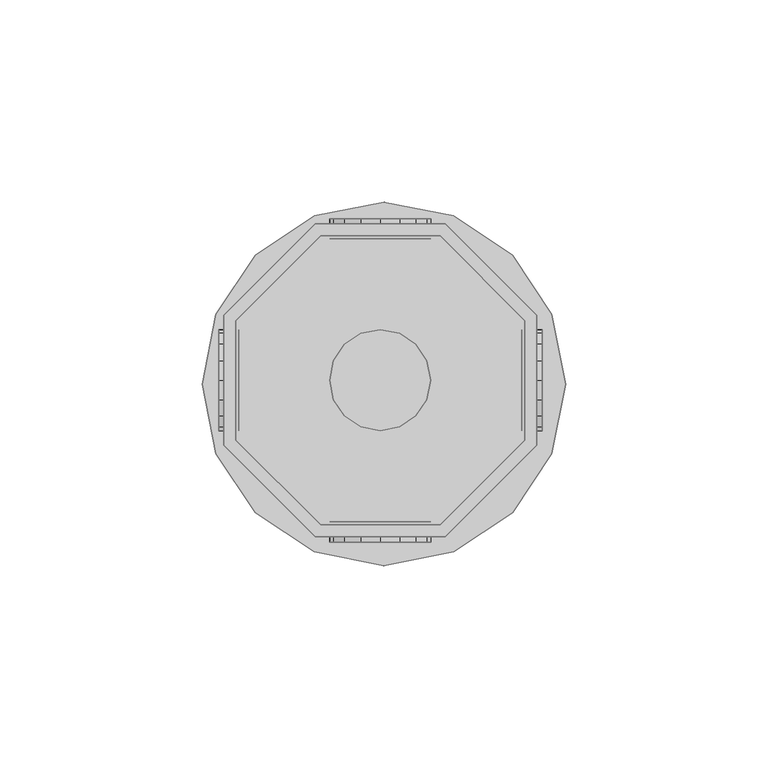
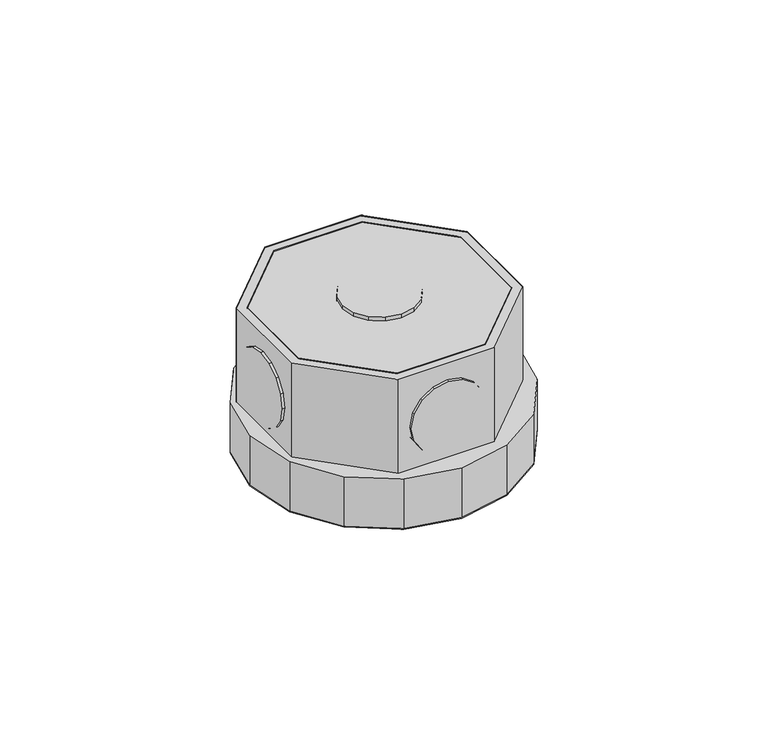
"""IFC4 building model written with IfcOpenShell, lengths in millimetres: light fixture geometry,  212966 :  212966."""

from ifc_helpers import new_model, si_unit, origin, place, context, project, spatial, triangles, source, transform, mapped, element, save


def light_fixture_6e5e3d0a(model_context):
    return source(origin(), model_context, "Body", "Tessellation", [
        triangles([(17975.0005005, 12407.9996063, 2924.5999741), (17945.3999817, 12407.9996063, 2975.400071), (17945.3999817, 12407.9996063, 2924.5999741), (17975.0005005, 12407.9996063, 2975.400071), (17976.2004272, 12333.4995026, 2924.5999741), (17944.100061, 12333.4995026, 2975.400071), (17944.100061, 12333.4995026, 2924.5999741), (17976.2004272, 12333.4995026, 2975.400071), (17924.4001007, 12386.9997253, 2975.400071), (17924.4001007, 12386.9997253, 2924.5999741), (17998.9002045, 12356.2004425, 2924.5999741), (17998.9002045, 12356.2004425, 2975.400071), (17924.4001007, 12357.4003693, 2975.400071), (17924.4001007, 12357.4003693, 2924.5999741), (17998.9002045, 12388.299646, 2924.5999741), (17998.9002045, 12388.299646, 2975.400071), (17945.3999817, 12336.5004822, 2975.400071), (17945.3999817, 12336.5004822, 2924.5999741), (17976.2004272, 12410.9994232, 2924.5999741), (17976.2004272, 12410.9994232, 2975.400071), (17975.0005005, 12336.5004822, 2924.5999741), (17975.0005005, 12336.5004822, 2975.400071), (17944.100061, 12410.9994232, 2975.400071), (17944.100061, 12410.9994232, 2924.5999741), (17995.9003876, 12357.4003693, 2924.5999741), (17995.9003876, 12357.4003693, 2975.400071), (17921.4002838, 12388.299646, 2975.400071), (17921.4002838, 12388.299646, 2924.5999741), (17921.4002838, 12356.2004425, 2975.400071), (17995.9003876, 12386.9997253, 2975.400071), (17995.9003876, 12386.9997253, 2924.5999741), (17921.4002838, 12356.2004425, 2924.5999741), (17924.4001007, 12357.4003693, 2972.3999634), (17945.3999817, 12336.5004822, 2972.3999634), (17975.0005005, 12336.5004822, 2972.3999634), (17995.9003876, 12357.4003693, 2972.3999634), (17995.9003876, 12386.9997253, 2972.3999634), (17975.0005005, 12407.9996063, 2972.3999634), (17945.3999817, 12407.9996063, 2972.3999634), (17924.4001007, 12386.9997253, 2972.3999634), (17921.4002838, 12388.299646, 2942.4000504), (17944.100061, 12410.9994232, 2942.4000504), (17976.2004272, 12410.9994232, 2942.4000504), (17998.9002045, 12388.299646, 2942.4000504), (17998.9002045, 12356.2004425, 2942.4000504), (17976.2004272, 12333.4995026, 2942.4000504), (17944.100061, 12333.4995026, 2942.4000504), (17921.4002838, 12356.2004425, 2942.4000504), (17943.8000793, 12329.7997284, 2942.4000504), (17919.5003998, 12354.1005707, 2942.4000504), (17929.1998077, 12339.5002991, 2942.4000504), (17916.0994446, 12371.2995209, 2942.4000504), (17919.5003998, 12388.5996277, 2942.4000504), (17929.1998077, 12403.1998993, 2942.4000504), (17943.8000793, 12412.90047, 2942.4000504), (17961.1001862, 12416.3002625, 2942.4000504), (17978.3002991, 12412.90047, 2942.4000504), (18002.5999786, 12388.5996277, 2942.4000504), (17992.9005707, 12403.1998993, 2942.4000504), (17961.1001862, 12326.299942, 2942.4000504), (17978.3002991, 12329.7997284, 2942.4000504), (17992.9005707, 12339.5002991, 2942.4000504), (18002.5999786, 12354.1005707, 2942.4000504), (18006.099765, 12371.2995209, 2942.4000504), (17919.5003998, 12354.1005707, 2924.5999741), (17943.8000793, 12329.7997284, 2924.5999741), (17929.1998077, 12339.5002991, 2924.5999741), (17916.0994446, 12371.2995209, 2924.5999741), (17919.5003998, 12388.5996277, 2924.5999741), (17929.1998077, 12403.1998993, 2924.5999741), (17943.8000793, 12412.90047, 2924.5999741), (17961.1001862, 12416.3002625, 2924.5999741), (17978.3002991, 12412.90047, 2924.5999741), (18002.5999786, 12388.5996277, 2924.5999741), (17992.9005707, 12403.1998993, 2924.5999741), (17961.1001862, 12326.299942, 2924.5999741), (17978.3002991, 12329.7997284, 2924.5999741), (17992.9005707, 12339.5002991, 2924.5999741), (18002.5999786, 12354.1005707, 2924.5999741), (18006.099765, 12371.2995209, 2924.5999741), (17948.5997864, 12412.2005127, 2952.6000092), (17955.4005341, 12412.2005127, 2945.9001274), (17951.2996216, 12412.2005127, 2948.5999626), (17947.6998413, 12412.2005127, 2957.4000069), (17960.2002411, 12412.2005127, 2944.8998978), (17948.5997864, 12412.2005127, 2962.2000046), (17964.9999481, 12412.2005127, 2945.9001274), (17951.2996216, 12412.2005127, 2966.2000511), (17968.999704, 12412.2005127, 2948.5999626), (17955.4005341, 12412.2005127, 2968.8998863), (17971.6995392, 12412.2005127, 2952.6000092), (17960.2002411, 12412.2005127, 2969.900116), (17972.6994781, 12412.2005127, 2957.4000069), (17964.9999481, 12412.2005127, 2968.8998863), (17971.6995392, 12412.2005127, 2962.2000046), (17968.999704, 12412.2005127, 2966.2000511), (17955.4005341, 12407.1996552, 2945.9001274), (17948.5997864, 12407.1996552, 2952.6000092), (17951.2996216, 12407.1996552, 2948.5999626), (17960.2002411, 12407.1996552, 2944.8998978), (17947.6998413, 12407.1996552, 2957.4000069), (17964.9999481, 12407.1996552, 2945.9001274), (17948.5997864, 12407.1996552, 2962.2000046), (17968.999704, 12407.1996552, 2948.5999626), (17951.2996216, 12407.1996552, 2966.2000511), (17955.4005341, 12407.1996552, 2968.8998863), (17971.6995392, 12407.1996552, 2952.6000092), (17960.2002411, 12407.1996552, 2969.900116), (17972.6994781, 12407.1996552, 2957.4000069), (17964.9999481, 12407.1996552, 2968.8998863), (17971.6995392, 12407.1996552, 2962.2000046), (17968.999704, 12407.1996552, 2966.2000511), (17948.5997864, 12337.2004395, 2952.6000092), (17955.4005341, 12337.2004395, 2945.9001274), (17951.2996216, 12337.2004395, 2948.5999626), (17947.6998413, 12337.2004395, 2957.4000069), (17960.2002411, 12337.2004395, 2944.8998978), (17948.5997864, 12337.2004395, 2962.2000046), (17964.9999481, 12337.2004395, 2945.9001274), (17951.2996216, 12337.2004395, 2966.2000511), (17968.999704, 12337.2004395, 2948.5999626), (17955.4005341, 12337.2004395, 2968.8998863), (17971.6995392, 12337.2004395, 2952.6000092), (17960.2002411, 12337.2004395, 2969.900116), (17972.6994781, 12337.2004395, 2957.4000069), (17964.9999481, 12337.2004395, 2968.8998863), (17971.6995392, 12337.2004395, 2962.2000046), (17968.999704, 12337.2004395, 2966.2000511), (17955.4005341, 12332.1995819, 2945.9001274), (17948.5997864, 12332.1995819, 2952.6000092), (17951.2996216, 12332.1995819, 2948.5999626), (17960.2002411, 12332.1995819, 2944.8998978), (17947.6998413, 12332.1995819, 2957.4000069), (17964.9999481, 12332.1995819, 2945.9001274), (17948.5997864, 12332.1995819, 2962.2000046), (17968.999704, 12332.1995819, 2948.5999626), (17951.2996216, 12332.1995819, 2966.2000511), (17955.4005341, 12332.1995819, 2968.8998863), (17971.6995392, 12332.1995819, 2952.6000092), (17960.2002411, 12332.1995819, 2969.900116), (17972.6994781, 12332.1995819, 2957.4000069), (17964.9999481, 12332.1995819, 2968.8998863), (17971.6995392, 12332.1995819, 2962.2000046), (17968.999704, 12332.1995819, 2966.2000511), (17925.2000519, 12367.3997589, 2945.9001274), (17925.2000519, 12360.7001678, 2952.6000092), (17925.2000519, 12363.4000031, 2948.5999626), (17925.2000519, 12372.1994659, 2944.8998978), (17925.2000519, 12359.7002289, 2957.4000069), (17925.2000519, 12377.0003357, 2945.9001274), (17925.2000519, 12360.7001678, 2962.2000046), (17925.2000519, 12381.1000854, 2948.5999626), (17925.2000519, 12363.4000031, 2966.2000511), (17925.2000519, 12367.3997589, 2968.8998863), (17925.2000519, 12383.7999207, 2952.6000092), (17925.2000519, 12372.1994659, 2969.900116), (17925.2000519, 12384.6998657, 2957.4000069), (17925.2000519, 12377.0003357, 2968.8998863), (17925.2000519, 12383.7999207, 2962.2000046), (17925.2000519, 12381.1000854, 2966.2000511), (17920.2003571, 12360.7001678, 2952.6000092), (17920.2003571, 12367.3997589, 2945.9001274), (17920.2003571, 12363.4000031, 2948.5999626), (17920.2003571, 12359.7002289, 2957.4000069), (17920.2003571, 12372.1994659, 2944.8998978), (17920.2003571, 12360.7001678, 2962.2000046), (17920.2003571, 12377.0003357, 2945.9001274), (17920.2003571, 12363.4000031, 2966.2000511), (17920.2003571, 12381.1000854, 2948.5999626), (17920.2003571, 12367.3997589, 2968.8998863), (17920.2003571, 12383.7999207, 2952.6000092), (17920.2003571, 12372.1994659, 2969.900116), (17920.2003571, 12384.6998657, 2957.4000069), (17920.2003571, 12377.0003357, 2968.8998863), (17920.2003571, 12383.7999207, 2962.2000046), (17920.2003571, 12381.1000854, 2966.2000511), (18000.2001251, 12367.3997589, 2945.9001274), (18000.2001251, 12360.7001678, 2952.6000092), (18000.2001251, 12363.4000031, 2948.5999626), (18000.2001251, 12372.1994659, 2944.8998978), (18000.2001251, 12359.7002289, 2957.4000069), (18000.2001251, 12377.0003357, 2945.9001274), (18000.2001251, 12360.7001678, 2962.2000046), (18000.2001251, 12381.1000854, 2948.5999626), (18000.2001251, 12363.4000031, 2966.2000511), (18000.2001251, 12367.3997589, 2968.8998863), (18000.2001251, 12383.7999207, 2952.6000092), (18000.2001251, 12372.1994659, 2969.900116), (18000.2001251, 12384.6998657, 2957.4000069), (18000.2001251, 12377.0003357, 2968.8998863), (18000.2001251, 12383.7999207, 2962.2000046), (18000.2001251, 12381.1000854, 2966.2000511), (17995.2004303, 12360.7001678, 2952.6000092), (17995.2004303, 12367.3997589, 2945.9001274), (17995.2004303, 12363.4000031, 2948.5999626), (17995.2004303, 12359.7002289, 2957.4000069), (17995.2004303, 12372.1994659, 2944.8998978), (17995.2004303, 12360.7001678, 2962.2000046), (17995.2004303, 12377.0003357, 2945.9001274), (17995.2004303, 12363.4000031, 2966.2000511), (17995.2004303, 12381.1000854, 2948.5999626), (17995.2004303, 12367.3997589, 2968.8998863), (17995.2004303, 12383.7999207, 2952.6000092), (17995.2004303, 12372.1994659, 2969.900116), (17995.2004303, 12384.6998657, 2957.4000069), (17995.2004303, 12377.0003357, 2968.8998863), (17995.2004303, 12383.7999207, 2962.2000046), (17995.2004303, 12381.1000854, 2966.2000511), (17955.4005341, 12360.7001678, 2976.9999733), (17948.5997864, 12367.3997589, 2976.9999733), (17951.2996216, 12363.4000031, 2976.9999733), (17947.6998413, 12372.1994659, 2976.9999733), (17960.2002411, 12359.7002289, 2976.9999733), (17948.5997864, 12377.0003357, 2976.9999733), (17964.9999481, 12360.7001678, 2976.9999733), (17951.2996216, 12381.1000854, 2976.9999733), (17968.999704, 12363.4000031, 2976.9999733), (17955.4005341, 12383.7999207, 2976.9999733), (17971.6995392, 12367.3997589, 2976.9999733), (17960.2002411, 12384.6998657, 2976.9999733), (17972.6994781, 12372.1994659, 2976.9999733), (17964.9999481, 12383.7999207, 2976.9999733), (17971.6995392, 12377.0003357, 2976.9999733), (17968.999704, 12381.1000854, 2976.9999733), (17948.5997864, 12367.3997589, 2971.9999878), (17955.4005341, 12360.7001678, 2971.9999878), (17951.2996216, 12363.4000031, 2971.9999878), (17947.6998413, 12372.1994659, 2971.9999878), (17960.2002411, 12359.7002289, 2971.9999878), (17948.5997864, 12377.0003357, 2971.9999878), (17964.9999481, 12360.7001678, 2971.9999878), (17951.2996216, 12381.1000854, 2971.9999878), (17968.999704, 12363.4000031, 2971.9999878), (17955.4005341, 12383.7999207, 2971.9999878), (17971.6995392, 12367.3997589, 2971.9999878), (17960.2002411, 12384.6998657, 2971.9999878), (17972.6994781, 12372.1994659, 2971.9999878), (17964.9999481, 12383.7999207, 2971.9999878), (17971.6995392, 12377.0003357, 2971.9999878), (17968.999704, 12381.1000854, 2971.9999878)], [[1, 2, 3], [2, 1, 4], [5, 6, 7], [6, 5, 8], [3, 9, 10], [9, 3, 2], [11, 8, 5], [8, 11, 12], [10, 13, 14], [13, 10, 9], [15, 12, 11], [12, 15, 16], [14, 17, 18], [17, 14, 13], [19, 16, 15], [16, 19, 20], [17, 21, 18], [21, 17, 22], [23, 19, 24], [19, 23, 20], [22, 25, 21], [25, 22, 26], [27, 24, 28], [24, 27, 23], [6, 13, 29], [29, 13, 27], [27, 13, 9], [27, 9, 23], [23, 9, 2], [23, 2, 4], [23, 4, 20], [20, 4, 30], [8, 17, 6], [6, 17, 13], [17, 8, 22], [12, 22, 8], [22, 12, 26], [30, 26, 12], [16, 30, 12], [20, 30, 16], [30, 1, 31], [1, 30, 4], [6, 32, 7], [32, 6, 29], [32, 14, 7], [28, 14, 32], [14, 28, 10], [24, 10, 28], [10, 24, 3], [1, 3, 24], [19, 1, 24], [31, 1, 19], [7, 18, 5], [14, 18, 7], [5, 18, 21], [5, 21, 11], [11, 21, 25], [11, 25, 31], [11, 31, 15], [15, 31, 19], [26, 31, 25], [31, 26, 30], [29, 28, 32], [28, 29, 27], [17, 33, 34], [33, 17, 13], [35, 17, 34], [17, 35, 22], [36, 22, 35], [22, 36, 26], [37, 26, 36], [26, 37, 30], [38, 30, 37], [30, 38, 4], [2, 38, 39], [38, 2, 4], [17, 9, 13], [9, 17, 22], [9, 22, 2], [2, 22, 26], [2, 26, 4], [4, 26, 30], [13, 40, 33], [40, 13, 9], [40, 34, 33], [35, 34, 40], [35, 40, 39], [35, 39, 36], [36, 39, 38], [36, 38, 37], [9, 39, 40], [39, 9, 2], [24, 41, 28], [41, 24, 42], [19, 42, 24], [42, 19, 43], [44, 19, 15], [19, 44, 43], [45, 15, 11], [15, 45, 44], [46, 11, 5], [11, 46, 45], [47, 5, 7], [5, 47, 46], [32, 47, 7], [47, 32, 48], [28, 48, 32], [48, 28, 41], [49, 50, 51], [48, 50, 49], [50, 48, 52], [41, 52, 48], [52, 41, 53], [53, 41, 54], [42, 54, 41], [54, 42, 55], [55, 42, 43], [55, 43, 56], [56, 43, 57], [57, 43, 44], [57, 44, 58], [57, 58, 59], [47, 49, 60], [49, 47, 48], [47, 60, 46], [61, 46, 60], [46, 61, 62], [46, 62, 45], [45, 62, 63], [44, 45, 63], [44, 63, 64], [44, 64, 58], [65, 66, 67], [66, 65, 32], [68, 32, 65], [32, 68, 28], [28, 68, 69], [70, 28, 69], [28, 70, 24], [71, 24, 70], [19, 24, 71], [19, 71, 72], [73, 19, 72], [19, 73, 15], [74, 15, 73], [74, 73, 75], [76, 66, 7], [32, 7, 66], [5, 76, 7], [76, 5, 77], [77, 5, 78], [11, 78, 5], [78, 11, 79], [79, 11, 15], [79, 15, 80], [80, 15, 74], [57, 75, 73], [75, 57, 59], [56, 73, 72], [73, 56, 57], [55, 72, 71], [72, 55, 56], [54, 71, 70], [71, 54, 55], [53, 70, 69], [70, 53, 54], [52, 69, 68], [69, 52, 53], [50, 68, 65], [68, 50, 52], [51, 65, 67], [65, 51, 50], [66, 51, 67], [51, 66, 49], [76, 49, 66], [49, 76, 60], [77, 60, 76], [60, 77, 61], [78, 61, 77], [61, 78, 62], [79, 62, 78], [62, 79, 63], [80, 63, 79], [63, 80, 64], [75, 58, 74], [58, 75, 59], [74, 64, 80], [64, 74, 58], [81, 82, 83], [82, 81, 84], [85, 82, 84], [85, 84, 86], [87, 85, 86], [87, 86, 88], [87, 88, 89], [89, 88, 90], [89, 90, 91], [91, 90, 92], [91, 92, 93], [93, 92, 94], [93, 94, 95], [95, 94, 96], [97, 98, 99], [98, 97, 100], [101, 98, 100], [101, 100, 102], [103, 101, 102], [103, 102, 104], [103, 104, 105], [105, 104, 106], [106, 104, 107], [106, 107, 108], [108, 107, 109], [108, 109, 110], [110, 109, 111], [110, 111, 112], [87, 104, 102], [104, 87, 89], [85, 102, 100], [102, 85, 87], [82, 100, 97], [100, 82, 85], [83, 97, 99], [97, 83, 82], [98, 83, 99], [83, 98, 81], [101, 81, 98], [81, 101, 84], [103, 84, 101], [84, 103, 86], [105, 86, 103], [86, 105, 88], [106, 88, 105], [88, 106, 90], [108, 90, 106], [90, 108, 92], [110, 92, 108], [92, 110, 94], [112, 94, 110], [94, 112, 96], [95, 112, 111], [112, 95, 96], [93, 111, 109], [111, 93, 95], [89, 107, 104], [107, 89, 91], [91, 109, 107], [109, 91, 93], [113, 114, 115], [114, 113, 116], [117, 114, 116], [117, 116, 118], [119, 117, 118], [119, 118, 120], [119, 120, 121], [121, 120, 122], [121, 122, 123], [123, 122, 124], [123, 124, 125], [125, 124, 126], [125, 126, 127], [127, 126, 128], [129, 130, 131], [130, 129, 132], [133, 130, 132], [133, 132, 134], [135, 133, 134], [135, 134, 136], [135, 136, 137], [137, 136, 138], [138, 136, 139], [138, 139, 140], [140, 139, 141], [140, 141, 142], [142, 141, 143], [142, 143, 144], [119, 136, 134], [136, 119, 121], [117, 134, 132], [134, 117, 119], [114, 132, 129], [132, 114, 117], [115, 129, 131], [129, 115, 114], [130, 115, 131], [115, 130, 113], [133, 113, 130], [113, 133, 116], [135, 116, 133], [116, 135, 118], [137, 118, 135], [118, 137, 120], [138, 120, 137], [120, 138, 122], [140, 122, 138], [122, 140, 124], [142, 124, 140], [124, 142, 126], [144, 126, 142], [126, 144, 128], [127, 144, 143], [144, 127, 128], [125, 143, 141], [143, 125, 127], [121, 139, 136], [139, 121, 123], [123, 141, 139], [141, 123, 125], [145, 146, 147], [146, 145, 148], [149, 146, 148], [149, 148, 150], [151, 149, 150], [151, 150, 152], [151, 152, 153], [153, 152, 154], [154, 152, 155], [154, 155, 156], [156, 155, 157], [156, 157, 158], [158, 157, 159], [158, 159, 160], [161, 162, 163], [162, 161, 164], [165, 162, 164], [165, 164, 166], [167, 165, 166], [167, 166, 168], [169, 167, 168], [169, 168, 170], [169, 170, 171], [171, 170, 172], [171, 172, 173], [173, 172, 174], [173, 174, 175], [175, 174, 176], [158, 176, 174], [176, 158, 160], [156, 174, 172], [174, 156, 158], [154, 172, 170], [172, 154, 156], [153, 170, 168], [170, 153, 154], [151, 168, 166], [168, 151, 153], [149, 166, 164], [166, 149, 151], [146, 164, 161], [164, 146, 149], [147, 161, 163], [161, 147, 146], [162, 147, 163], [147, 162, 145], [165, 145, 162], [145, 165, 148], [167, 148, 165], [148, 167, 150], [169, 150, 167], [150, 169, 152], [171, 152, 169], [152, 171, 155], [173, 155, 171], [155, 173, 157], [176, 159, 175], [159, 176, 160], [175, 157, 173], [157, 175, 159], [177, 178, 179], [178, 177, 180], [181, 178, 180], [181, 180, 182], [183, 181, 182], [183, 182, 184], [183, 184, 185], [185, 184, 186], [186, 184, 187], [186, 187, 188], [188, 187, 189], [188, 189, 190], [190, 189, 191], [190, 191, 192], [193, 194, 195], [194, 193, 196], [197, 194, 196], [197, 196, 198], [199, 197, 198], [199, 198, 200], [201, 199, 200], [201, 200, 202], [201, 202, 203], [203, 202, 204], [203, 204, 205], [205, 204, 206], [205, 206, 207], [207, 206, 208], [190, 208, 206], [208, 190, 192], [188, 206, 204], [206, 188, 190], [186, 204, 202], [204, 186, 188], [185, 202, 200], [202, 185, 186], [183, 200, 198], [200, 183, 185], [181, 198, 196], [198, 181, 183], [178, 196, 193], [196, 178, 181], [179, 193, 195], [193, 179, 178], [194, 179, 195], [179, 194, 177], [197, 177, 194], [177, 197, 180], [199, 180, 197], [180, 199, 182], [201, 182, 199], [182, 201, 184], [203, 184, 201], [184, 203, 187], [205, 187, 203], [187, 205, 189], [208, 191, 207], [191, 208, 192], [207, 189, 205], [189, 207, 191], [209, 210, 211], [212, 210, 209], [212, 209, 213], [214, 212, 213], [214, 213, 215], [216, 214, 215], [216, 215, 217], [216, 217, 218], [218, 217, 219], [218, 219, 220], [220, 219, 221], [220, 221, 222], [222, 221, 223], [222, 223, 224], [225, 226, 227], [226, 225, 228], [229, 226, 228], [229, 228, 230], [231, 229, 230], [231, 230, 232], [231, 232, 233], [233, 232, 234], [233, 234, 235], [235, 234, 236], [235, 236, 237], [237, 236, 238], [237, 238, 239], [239, 238, 240], [222, 240, 238], [240, 222, 224], [220, 238, 236], [238, 220, 222], [218, 236, 234], [236, 218, 220], [216, 234, 232], [234, 216, 218], [214, 232, 230], [232, 214, 216], [212, 230, 228], [230, 212, 214], [210, 228, 225], [228, 210, 212], [211, 225, 227], [225, 211, 210], [226, 211, 227], [211, 226, 209], [229, 209, 226], [209, 229, 213], [231, 213, 229], [213, 231, 215], [233, 215, 231], [215, 233, 217], [235, 217, 233], [217, 235, 219], [237, 219, 235], [219, 237, 221], [240, 223, 239], [223, 240, 224], [239, 221, 237], [221, 239, 223]], closed=False),
    ])


if __name__ == "__main__":
    model = new_model("IFC4")
    model_context = context("Model", 3, world=origin())
    ifc_project = project(units=[si_unit("LENGTHUNIT", "METRE", prefix="MILLI")], contexts=[model_context])
    site = spatial("IfcSite", under=ifc_project)
    building = spatial("IfcBuilding", under=site)
    placement = place(None, origin())
    light_fixture_shape = light_fixture_6e5e3d0a(model_context)
    element("IfcLightFixture", 1, ObjectType=" 212966 :  212966", at=placement, inside=building, context=model_context, shape_type="MappedRepresentation", body=[
        mapped(light_fixture_shape, transform((0.0, 0.0, 0.0), x_axis=(1.0, 0.0, 0.0), y_axis=(0.0, 1.0, 0.0), z_axis=(0.0, 0.0, 1.0))),
    ])
    save(model, "model.ifc")
